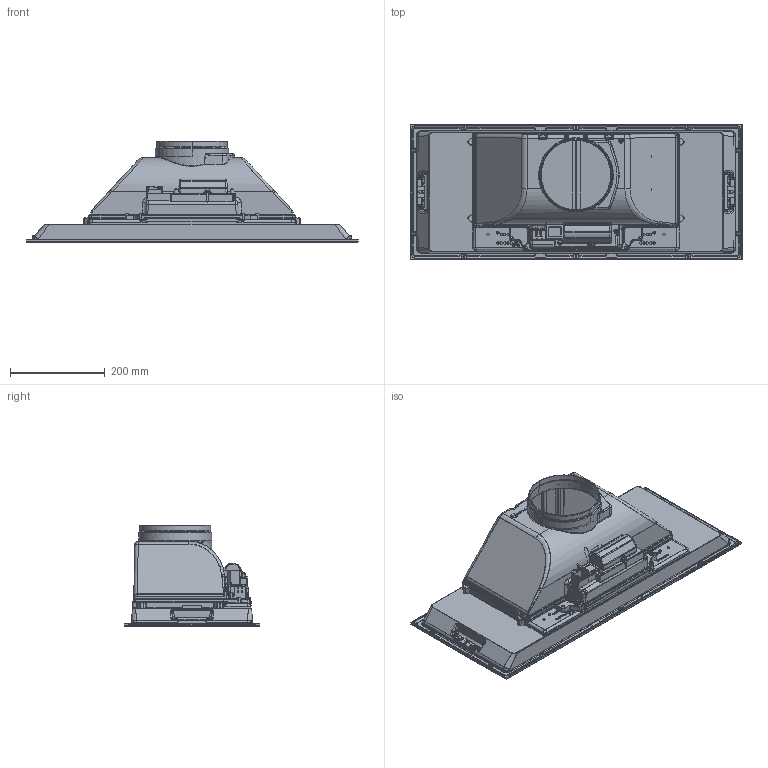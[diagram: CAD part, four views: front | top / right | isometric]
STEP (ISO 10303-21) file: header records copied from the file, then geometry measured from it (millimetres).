
FILE_DESCRIPTION(/* description */ (''),/* implementation_level */ '2;1');
FILE_NAME(/* name */ '3D001_Hoods_Buit-In_FBI-705',/* time_stamp */ '2024-02-12T10:23:14+01:00',/* author */ (''),/* organization */ (''),/* preprocessor_version */ 'ST-DEVELOPER v19.2',/* originating_system */ 'Rhino 8.3',/* authorisation */ '');
FILE_SCHEMA (('CONFIG_CONTROL_DESIGN'));
Products named in the file (14): Document; 281_002_A; Blocco 09; 281_111_AF137_A; Blocco 08; BREP_1; 305047_017_A_ASM; BLOCCO_01_A; 305047_030_A; FIN_022_A; 305047_020_A; K10_004_A; K10_005_A; GEMMA_D10_A
Bounding box: 702 x 286 x 214.04 mm (x, y, z)
Volume: 668093.9 mm3; surface area: 1440692.2 mm2
Topology: 17 solids, 51 shells, 9069 faces, 23785 edges, 14875 vertices
Faces by surface type: plane 4168, cylinder 2884, bspline 2017
Entity records: 382723 total; most frequent: CARTESIAN_POINT 215396, ORIENTED_EDGE 43332, EDGE_CURVE 21809, DIRECTION 16689, B_SPLINE_CURVE_WITH_KNOTS 16670, VERTEX_POINT 13651, AXIS2_PLACEMENT_3D 11565, EDGE_LOOP 8652
